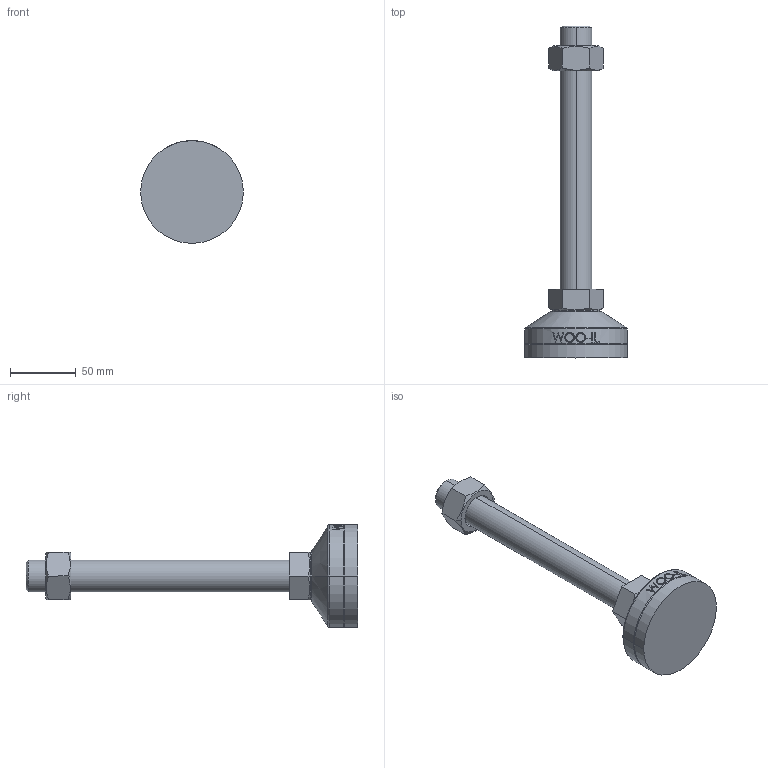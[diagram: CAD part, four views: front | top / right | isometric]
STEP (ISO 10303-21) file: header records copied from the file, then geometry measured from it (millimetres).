
FILE_DESCRIPTION (( 'STEP AP214' ), '1' );
FILE_NAME ('MFR78-M24-200.step', '2021-01-13T05:40:22', ( '' ), ( '' ), 'SwSTEP 2.0', 'SolidWorks 2019', '' );
FILE_SCHEMA (( 'AUTOMOTIVE_DESIGN' ));
Length unit declared in the file: millimetre
Products named in the file (2): MFR78-M24-200
Bounding box: 78 x 252 x 78 mm (x, y, z)
Volume: 263917.3 mm3; surface area: 49345.9 mm2
Topology: 4 solids, 4 shells, 103 faces, 235 edges, 150 vertices
Faces by surface type: plane 49, cylinder 18, bspline 16, cone 14, torus 6
Entity records: 4471 total; most frequent: CARTESIAN_POINT 2198, ORIENTED_EDGE 470, DIRECTION 417, EDGE_CURVE 235, AXIS2_PLACEMENT_3D 159, VERTEX_POINT 150, EDGE_LOOP 115, ADVANCED_FACE 103
